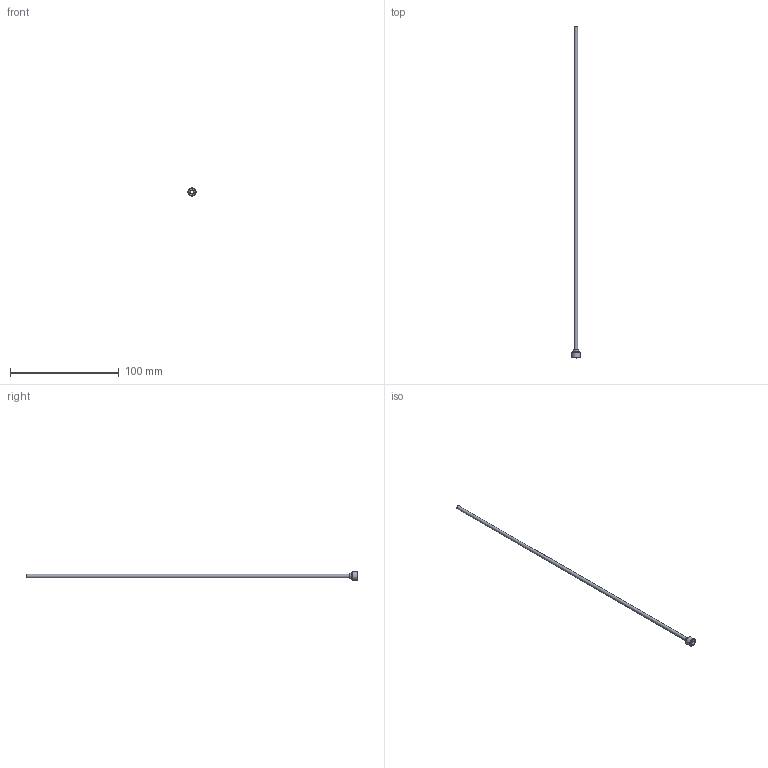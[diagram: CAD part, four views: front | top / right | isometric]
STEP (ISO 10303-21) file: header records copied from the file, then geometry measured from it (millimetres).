
FILE_DESCRIPTION(/* description */ (''),/* implementation_level */ '2;1');
FILE_NAME(/* name */ 'C:/Users/drich/Desktop/PT16-125-12 v1.step',/* time_stamp */ '2019-12-27T15:18:35-06:00',/* author */ (''),/* organization */ (''),/* preprocessor_version */ 'ST-DEVELOPER v18',/* originating_system */ 'Autodesk Translation Framework v8.12.0.6',/* authorisation */ '');
FILE_SCHEMA (('AUTOMOTIVE_DESIGN { 1 0 10303 214 3 1 1 }'));
Length unit declared in the file: inch
Products named in the file (1): PT16-125-12
Bounding box: 7.62 x 304.8 x 7.62 mm (x, y, z)
Volume: 784.5 mm3; surface area: 5861.1 mm2
Topology: 1 solids, 1 shells, 19 faces, 48 edges, 34 vertices
Faces by surface type: plane 11, cylinder 4, torus 2, cone 2
Full cylindrical faces by diameter (mm): 2.769 x1, 3.175 x1, 4.724 x1, 7.616 x1
Entity records: 633 total; most frequent: DIRECTION 112, CARTESIAN_POINT 102, ORIENTED_EDGE 96, EDGE_CURVE 48, AXIS2_PLACEMENT_3D 44, VERTEX_POINT 34, CIRCLE 24, EDGE_LOOP 24
